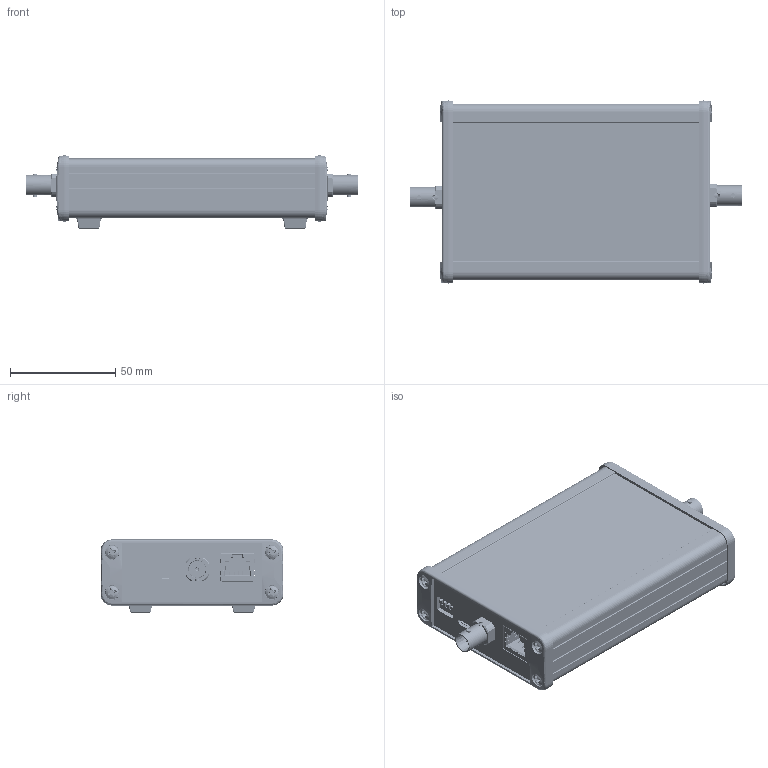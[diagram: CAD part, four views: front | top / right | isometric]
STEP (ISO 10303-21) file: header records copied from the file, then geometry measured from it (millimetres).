
FILE_DESCRIPTION( ( 'Unknown' ), '1' );
FILE_NAME( 'Q:/2003/Product3DCADModels/mm-ap24c01-0089-0201.stp', 'Unknown', ( 'Unknown' ), ( 'Unknown' ), 'PSStep 17.0.49', 'Unknown', ' ' );
FILE_SCHEMA( ( 'AUTOMOTIVE_DESIGN { 1 0 10303 214 1 1 1 1 }' ) );
Length unit declared in the file: millimetre
Products named in the file (618): Body.step; Open_CASCADE_STEP_translator_6.8_2.2.1.step; 1627256848.step; ball.step; Open_CASCADE_STEP_translator_6.8_2.1.step; U1.step; Pin_Shape; Open_CASCADE_STEP_translator_6.8_14.4.1; Body-4; Open_CASCADE_STEP_translator_6.8_4.2.1; Body-5; Open_CASCADE_STEP_translator_6.8_12.2.1; Pin_Shape-2; Body-1; Open_CASCADE_STEP_translator_6.8_14.2.1; Body; Open_CASCADE_STEP_translator_6.8_2.2.1; Pin_Shape-1; Open_CASCADE_STEP_translator_6.8_17.4.1; Body-2; Open_CASCADE_STEP_translator_6.8_17.2.1; Pin_Shape-3; Open_CASCADE_STEP_translator_6.8_12.4.1; L3-918.step; Body-3; L3-918; 6401655408; Extruded; 5961291616; 6488058480; 5064846416; 6437570416; Thermal_Shape; Open_CASCADE_STEP_translator_6.8_17.1; 6437571456; ball; Open_CASCADE_STEP_translator_6.8_2.1; 6489381664; 5961291296; 6488056080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
Assembly tree (2309 placements, depth 9):
  Assem1
    Board
    G-906-830P  x2
    AP24-enclosure-01
      1457J1201 Extrusion
      1457J End PNL
      1457J End PNL
      6-32 PH x .5 Screw  x8
      foot  x4
      L3-448
      gasket  x2
    mm-ap24c01-0088-0201
      Board
        Open CASCADE STEP translator 6.8 4.1.1
      L11
        Coilcraft-0603USB
      U12
        6437571456
          ball  x49
          Open_CASCADE_STEP_translator_6.8_2.1
          Body
            Open_CASCADE_STEP_translator_6.8_2.2.1
      SP12
        6489385824
          Extruded
      LED2
        5961291616
          Extruded
        5961291296
          Extruded
        5961290896
          Extruded
        5961290576
          Extruded
      J7
        CUI_INC_UJ31-CH-G1-SMT-TR
      L6
        Coilcraft-0805USB
      C28
        6392012352
          Extruded
      C27
        6392012352
          Extruded
      R38
        CR1005-0402
        CR1005-0402
        CR1005-0402
        CR1005-0402
      R37
        CR1005-0402
        CR1005-0402
        CR1005-0402
        CR1005-0402
      R36
        CR1005-0402
        CR1005-0402
        CR1005-0402
        CR1005-0402
      R35
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Bounding box: 157.8 x 86.96 x 34.78 mm (x, y, z)
Surface area: 141279.6 mm2 (no closed solid volume)
Topology: 0 solids, 21036 shells, 21036 faces, 107137 edges, 106066 vertices
Faces by surface type: plane 17447, cylinder 2215, sphere 784, torus 188, cone 174, bspline 145, extrusion 74, revolution 9
Full cylindrical faces by diameter (mm): 0.023 x14, 0.164 x7, 0.256 x1, 0.4 x24, 0.432 x4, 0.5 x1, 0.519 x1, 0.527 x1, 0.6 x2, 0.7 x8, 0.75 x1, 0.8 x24, 0.9 x16, 1 x4, 1.1 x2, 1.137 x1, 1.3 x14, 1.375 x1, 1.42 x2, 1.5 x2, 1.575 x8, 1.6 x4, 1.78 x1, 1.8 x16, 2 x4, 2.1 x4, 2.125 x1, 2.5 x10, 2.7 x8, 3.099 x4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
Entity records: 484644 total; most frequent: CARTESIAN_POINT 109922, DIRECTION 63826, VERTEX_POINT 39234, ORIENTED_EDGE 39220, EDGE_CURVE 39220, VECTOR 31141, LINE 31076, AXIS2_PLACEMENT_3D 16338
